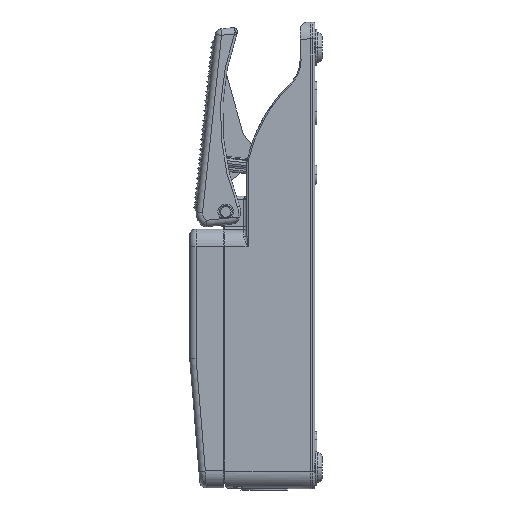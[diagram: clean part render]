
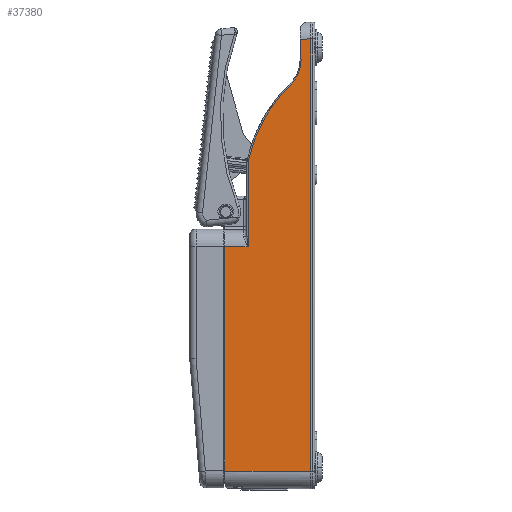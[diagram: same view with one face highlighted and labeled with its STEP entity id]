
A CAD part, left-side view. The second image highlights one B-rep face of the part: STEP entity #37380.
In plain terms, the highlighted planar face has unit normal (-1, 0.009, 0).
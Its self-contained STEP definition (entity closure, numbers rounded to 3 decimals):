
#5049=DIRECTION('',(0.,0.,1.));
#5050=VECTOR('',#5049,6.17);
#5051=CARTESIAN_POINT('',(-35.314,7.,75.287));
#5052=LINE('',#5051,#5050);
#5678=DIRECTION('',(0.,0.,1.));
#5679=VECTOR('',#5678,105.647);
#5680=CARTESIAN_POINT('',(-35.004,42.504,
-122.147));
#5681=LINE('',#5680,#5679);
#10770=CARTESIAN_POINT('',(-35.1,31.504,
-16.5));
#10814=DIRECTION('',(0.009,1.,0.));
#10815=VECTOR('',#10814,11.);
#10816=CARTESIAN_POINT('',(-35.1,31.504,
-16.5));
#10817=LINE('',#10816,#10815);
#10821=DIRECTION('',(0.,0.,1.));
#10822=VECTOR('',#10821,204.);
#10823=CARTESIAN_POINT('',(-35.358,2.,-122.5));
#10824=LINE('',#10823,#10822);
#10835=DIRECTION('',(0.,0.,1.));
#10836=VECTOR('',#10835,40.445);
#10837=CARTESIAN_POINT('',(-35.1,31.504,
-16.5));
#10838=LINE('',#10837,#10836);
#10859=CARTESIAN_POINT('',(-35.1,31.504,
23.945));
#10891=CARTESIAN_POINT('',(-35.1,31.504,
23.944));
#10892=CARTESIAN_POINT('',(-35.102,31.356,
24.627));
#10893=CARTESIAN_POINT('',(-35.104,31.039,
25.99));
#10894=CARTESIAN_POINT('',(-35.109,30.502,
28.024));
#10895=CARTESIAN_POINT('',(-35.114,29.904,
30.044));
#10896=CARTESIAN_POINT('',(-35.12,29.246,
32.049));
#10897=CARTESIAN_POINT('',(-35.126,28.529,
34.035));
#10898=CARTESIAN_POINT('',(-35.133,27.753,
36.));
#10899=CARTESIAN_POINT('',(-35.14,26.919,
37.941));
#10900=CARTESIAN_POINT('',(-35.148,26.028,
39.857));
#10901=CARTESIAN_POINT('',(-35.156,25.082,
41.744));
#10902=CARTESIAN_POINT('',(-35.165,24.081,
43.601));
#10903=CARTESIAN_POINT('',(-35.174,23.025,
45.428));
#10904=CARTESIAN_POINT('',(-35.184,21.916,
47.224));
#10905=CARTESIAN_POINT('',(-35.194,20.754,
48.987));
#10906=CARTESIAN_POINT('',(-35.205,19.54,
50.715));
#10907=CARTESIAN_POINT('',(-35.216,18.276,
52.406));
#10908=CARTESIAN_POINT('',(-35.227,16.963,
54.059));
#10909=CARTESIAN_POINT('',(-35.239,15.602,
55.671));
#10910=CARTESIAN_POINT('',(-35.251,14.197,
57.24));
#10911=CARTESIAN_POINT('',(-35.264,12.747,
58.766));
#10912=CARTESIAN_POINT('',(-35.273,11.753,
59.752));
#10913=CARTESIAN_POINT('',(-35.277,11.249,
60.237));
#11086=CARTESIAN_POINT('',(-35.277,11.249,
60.237));
#11087=CARTESIAN_POINT('',(-35.279,11.085,
60.396));
#11088=CARTESIAN_POINT('',(-35.281,10.763,
60.72));
#11089=CARTESIAN_POINT('',(-35.285,10.303,
61.226));
#11090=CARTESIAN_POINT('',(-35.289,9.866,
61.752));
#11091=CARTESIAN_POINT('',(-35.293,9.452,
62.297));
#11092=CARTESIAN_POINT('',(-35.296,9.063,
62.859));
#11093=CARTESIAN_POINT('',(-35.299,8.699,
63.438));
#11094=CARTESIAN_POINT('',(-35.302,8.361,
64.033));
#11095=CARTESIAN_POINT('',(-35.305,8.049,
64.642));
#11096=CARTESIAN_POINT('',(-35.307,7.765,
65.263));
#11097=CARTESIAN_POINT('',(-35.31,7.508,
65.897));
#11098=CARTESIAN_POINT('',(-35.312,7.28,
66.542));
#11099=CARTESIAN_POINT('',(-35.313,7.08,
67.196));
#11100=CARTESIAN_POINT('',(-35.315,6.909,
67.858));
#11101=CARTESIAN_POINT('',(-35.316,6.768,
68.525));
#11102=CARTESIAN_POINT('',(-35.317,6.656,
69.199));
#11103=CARTESIAN_POINT('',(-35.318,6.574,
69.877));
#11104=CARTESIAN_POINT('',(-35.318,6.522,
70.558));
#11105=CARTESIAN_POINT('',(-35.319,6.5,
71.242));
#11106=CARTESIAN_POINT('',(-35.318,6.508,
71.926));
#11107=CARTESIAN_POINT('',(-35.318,6.547,
72.608));
#11108=CARTESIAN_POINT('',(-35.318,6.615,
73.288));
#11109=CARTESIAN_POINT('',(-35.317,6.713,
73.962));
#11110=CARTESIAN_POINT('',(-35.316,6.84,
74.629));
#11111=CARTESIAN_POINT('',(-35.315,6.943,
75.069));
#11112=CARTESIAN_POINT('',(-35.314,7.,
75.287));
#11202=DIRECTION('',(-0.009,-1.,0.009));
#11203=VECTOR('',#11202,5.);
#11204=CARTESIAN_POINT('',(-35.314,7.,81.457));
#11205=LINE('',#11204,#11203);
#11259=DIRECTION('',(-0.009,-1.,-0.009));
#11260=VECTOR('',#11259,40.507);
#11261=CARTESIAN_POINT('',(-35.004,42.504,
-122.147));
#11262=LINE('',#11261,#11260);
#23135=CARTESIAN_POINT('',(-35.314,7.,81.457));
#23136=CARTESIAN_POINT('',(-35.358,2.,81.5));
#23137=VERTEX_POINT('',#23135);
#23138=VERTEX_POINT('',#23136);
#23147=CARTESIAN_POINT('',(-35.358,2.,-122.5));
#23148=VERTEX_POINT('',#23147);
#23197=CARTESIAN_POINT('',(-35.314,7.,
75.287));
#23198=VERTEX_POINT('',#23197);
#23205=VERTEX_POINT('',#10859);
#23502=CARTESIAN_POINT('',(-35.004,42.504,
-122.147));
#23503=CARTESIAN_POINT('',(-35.004,42.504,
-16.5));
#23504=VERTEX_POINT('',#23502);
#23505=VERTEX_POINT('',#23503);
#24056=VERTEX_POINT('',#10770);
#24106=VERTEX_POINT('',#11086);
#37359=CARTESIAN_POINT('',(-35.358,2.,67.48));
#37360=DIRECTION('',(-1.,0.009,0.));
#37361=DIRECTION('',(0.,0.,1.));
#37362=AXIS2_PLACEMENT_3D('',#37359,#37360,#37361);
#37363=PLANE('',#37362);
#37364=ORIENTED_EDGE('',*,*,#31642,.T.);
#37365=ORIENTED_EDGE('',*,*,#37323,.F.);
#37367=ORIENTED_EDGE('',*,*,#37366,.T.);
#37369=ORIENTED_EDGE('',*,*,#37368,.T.);
#37371=ORIENTED_EDGE('',*,*,#37370,.T.);
#37372=ORIENTED_EDGE('',*,*,#31134,.T.);
#37374=ORIENTED_EDGE('',*,*,#37373,.T.);
#37375=ORIENTED_EDGE('',*,*,#27643,.F.);
#37377=ORIENTED_EDGE('',*,*,#37376,.F.);
#37378=EDGE_LOOP('',(#37364,#37365,#37367,#37369,#37371,#37372,#37374,#37375,
#37377));
#37379=FACE_OUTER_BOUND('',#37378,.F.);
#10914=B_SPLINE_CURVE_WITH_KNOTS('',3,(#10891,#10892,#10893,#10894,#10895,
#10896,#10897,#10898,#10899,#10900,#10901,#10902,#10903,#10904,#10905,#10906,
#10907,#10908,#10909,#10910,#10911,#10912,#10913),.UNSPECIFIED.,.F.,.F.,(4,1,1,
1,1,1,1,1,1,1,1,1,1,1,1,1,1,1,1,1,4),(0.,0.05,0.1,0.15,0.2,0.25,
0.3,0.35,0.4,0.45,0.5,0.55,0.6,0.65,0.7,0.75,0.8,0.85,
0.9,0.95,1.),.UNSPECIFIED.);
#11113=B_SPLINE_CURVE_WITH_KNOTS('',3,(#11086,#11087,#11088,#11089,#11090,
#11091,#11092,#11093,#11094,#11095,#11096,#11097,#11098,#11099,#11100,#11101,
#11102,#11103,#11104,#11105,#11106,#11107,#11108,#11109,#11110,#11111,#11112),
.UNSPECIFIED.,.F.,.F.,(4,1,1,1,1,1,1,1,1,1,1,1,1,1,1,1,1,1,1,1,1,1,1,1,4),(0.,
0.042,0.083,0.125,0.167,0.208,
0.25,0.292,0.333,0.375,0.417,
0.458,0.5,0.542,0.583,0.625,
0.667,0.708,0.75,0.792,0.833,
0.875,0.917,0.958,1.),.UNSPECIFIED.);
#27643=EDGE_CURVE('',#23148,#23138,#10824,.T.);
#31134=EDGE_CURVE('',#23198,#23137,#5052,.T.);
#31642=EDGE_CURVE('',#23504,#23505,#5681,.T.);
#37323=EDGE_CURVE('',#24056,#23505,#10817,.T.);
#37366=EDGE_CURVE('',#24056,#23205,#10838,.T.);
#37368=EDGE_CURVE('',#23205,#24106,#10914,.T.);
#37370=EDGE_CURVE('',#24106,#23198,#11113,.T.);
#37373=EDGE_CURVE('',#23137,#23138,#11205,.T.);
#37376=EDGE_CURVE('',#23504,#23148,#11262,.T.);
#37380=ADVANCED_FACE('',(#37379),#37363,.T.);
